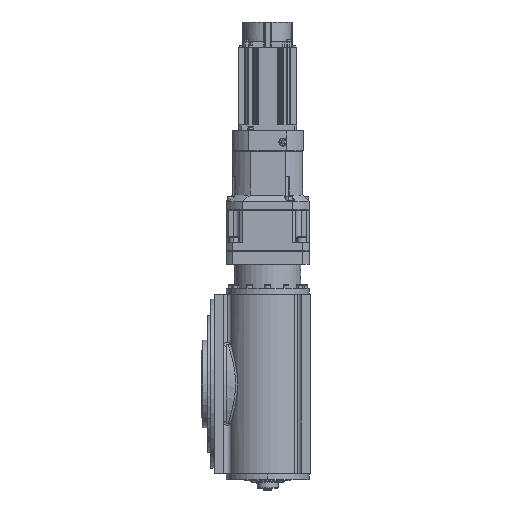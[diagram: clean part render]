
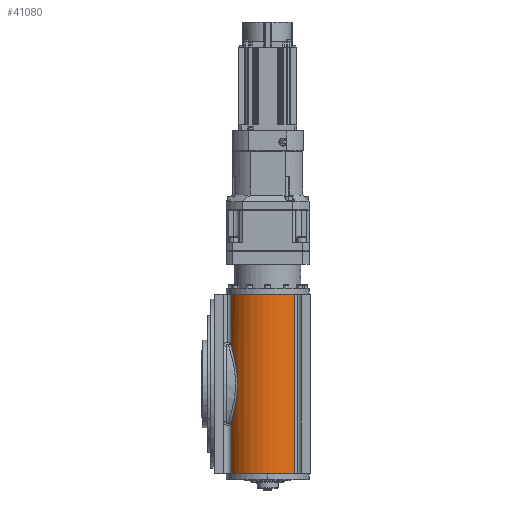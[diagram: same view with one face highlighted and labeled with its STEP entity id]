
A CAD part, left-side view. The second image highlights one B-rep face of the part: STEP entity #41080.
In plain terms, the highlighted cylindrical face has radius 71 mm (diameter 142 mm), a partial arc.
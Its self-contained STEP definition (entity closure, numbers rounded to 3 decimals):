
#3205 = CARTESIAN_POINT ( 'NONE',  ( -130.722, 135.43, -63.561 ) ) ;
#3696 = CARTESIAN_POINT ( 'NONE',  ( -142.826, 126.476, -19.641 ) ) ;
#7755 = DIRECTION ( 'NONE',  ( 0., 0., 1. ) ) ;
#7945 = AXIS2_PLACEMENT_3D ( 'NONE', #30202, #60069, #38336 ) ;
#10569 = CARTESIAN_POINT ( 'NONE',  ( -128.109, 136.808, -500000. ) ) ;
#11049 = EDGE_CURVE ( 'NONE', #29724, #15062, #94464, .T. ) ;
#11271 = CARTESIAN_POINT ( 'NONE',  ( -144.049, 125.334, 2.839 ) ) ;
#11756 = CARTESIAN_POINT ( 'NONE',  ( -141.192, 127.924, -30.015 ) ) ;
#12470 = LINE ( 'NONE', #96838, #62014 ) ;
#14982 = CARTESIAN_POINT ( 'NONE',  ( -95., 74., -154. ) ) ;
#15062 = VERTEX_POINT ( 'NONE', #67678 ) ;
#16225 = CARTESIAN_POINT ( 'NONE',  ( -128.109, 136.808, 154. ) ) ;
#16400 = AXIS2_PLACEMENT_3D ( 'NONE', #61352, #7755, #91068 ) ;
#18342 = CARTESIAN_POINT ( 'NONE',  ( -143.713, 125.653, 10.36 ) ) ;
#18853 = CARTESIAN_POINT ( 'NONE',  ( -141.962, 127.251, -25.6 ) ) ;
#19120 = LINE ( 'NONE', #10569, #38814 ) ;
#19866 = CARTESIAN_POINT ( 'NONE',  ( -143.967, 125.413, 5.846 ) ) ;
#21327 = CARTESIAN_POINT ( 'NONE',  ( -128.109, 136.808, -154. ) ) ;
#23214 = VERTEX_POINT ( 'NONE', #65581 ) ;
#25001 = EDGE_CURVE ( 'NONE', #15062, #64308, #40523, .T. ) ;
#26444 = CARTESIAN_POINT ( 'NONE',  ( -136.889, 131.329, 46.942 ) ) ;
#29477 = EDGE_CURVE ( 'NONE', #29724, #62097, #19120, .T. ) ;
#29724 = VERTEX_POINT ( 'NONE', #48913 ) ;
#30202 = CARTESIAN_POINT ( 'NONE',  ( -95., 74., -154. ) ) ;
#33474 = VERTEX_POINT ( 'NONE', #88757 ) ;
#33542 = CARTESIAN_POINT ( 'NONE',  ( -133.018, 134.012, 58.125 ) ) ;
#34537 = CARTESIAN_POINT ( 'NONE',  ( -138.57, 130.069, 41.275 ) ) ;
#34563 = ORIENTED_EDGE ( 'NONE', *, *, #79635, .T. ) ;
#35548 = CARTESIAN_POINT ( 'NONE',  ( -142.631, 126.653, -21.138 ) ) ;
#38336 = DIRECTION ( 'NONE',  ( 1., 0., 0. ) ) ;
#38814 = VECTOR ( 'NONE', #42403, 1000. ) ;
#39037 = CIRCLE ( 'NONE', #16400, 71. ) ;
#39189 = CARTESIAN_POINT ( 'NONE',  ( -130.725, 135.429, 63.555 ) ) ;
#40015 = DIRECTION ( 'NONE',  ( 0., 0., -1. ) ) ;
#40523 = LINE ( 'NONE', #79342, #45690 ) ;
#41080 = ADVANCED_FACE ( 'NONE', ( #83676 ), #52967, .T. ) ;
#42403 = DIRECTION ( 'NONE',  ( 0., 0., 1. ) ) ;
#42629 = CARTESIAN_POINT ( 'NONE',  ( -143.2, 126.132, 16.387 ) ) ;
#45690 = VECTOR ( 'NONE', #40015, 1000. ) ;
#48744 = CARTESIAN_POINT ( 'NONE',  ( -144.04, 125.343, -6.17 ) ) ;
#48913 = CARTESIAN_POINT ( 'NONE',  ( -128.109, 136.808, 68.859 ) ) ;
#49233 = CARTESIAN_POINT ( 'NONE',  ( -128.109, 136.808, -68.859 ) ) ;
#49721 = CARTESIAN_POINT ( 'NONE',  ( -140.598, 128.429, -32.922 ) ) ;
#52967 = CYLINDRICAL_SURFACE ( 'NONE', #79910, 71. ) ;
#56239 = ORIENTED_EDGE ( 'NONE', *, *, #98553, .T. ) ;
#57321 = CARTESIAN_POINT ( 'NONE',  ( -137.325, 131.008, 45.529 ) ) ;
#59995 = DIRECTION ( 'NONE',  ( 0., 0., 1. ) ) ;
#60069 = DIRECTION ( 'NONE',  ( 0., 0., 1. ) ) ;
#61024 = DIRECTION ( 'NONE',  ( 1., 0., 0. ) ) ;
#61352 = CARTESIAN_POINT ( 'NONE',  ( -95., 74., 154. ) ) ;
#62014 = VECTOR ( 'NONE', #59995, 1000. ) ;
#62097 = VERTEX_POINT ( 'NONE', #16225 ) ;
#64308 = VERTEX_POINT ( 'NONE', #21327 ) ;
#65348 = CARTESIAN_POINT ( 'NONE',  ( -143.351, 125.993, 14.878 ) ) ;
#65581 = CARTESIAN_POINT ( 'NONE',  ( -148.721, 27.577, -154. ) ) ;
#65838 = CARTESIAN_POINT ( 'NONE',  ( -135.977, 131.984, 49.755 ) ) ;
#65981 = CIRCLE ( 'NONE', #7945, 71. ) ;
#67678 = CARTESIAN_POINT ( 'NONE',  ( -128.109, 136.808, -68.859 ) ) ;
#73383 = CARTESIAN_POINT ( 'NONE',  ( -143.607, 125.753, 11.865 ) ) ;
#75622 = DIRECTION ( 'NONE',  ( 0., 0., 1. ) ) ;
#79342 = CARTESIAN_POINT ( 'NONE',  ( -128.109, 136.808, 500000. ) ) ;
#79491 = CARTESIAN_POINT ( 'NONE',  ( -132.999, 134.023, -58.167 ) ) ;
#79635 = EDGE_CURVE ( 'NONE', #64308, #23214, #65981, .T. ) ;
#79910 = AXIS2_PLACEMENT_3D ( 'NONE', #14982, #75622, #61024 ) ;
#79987 = CARTESIAN_POINT ( 'NONE',  ( -142.345, 126.918, 23.884 ) ) ;
#80493 = CARTESIAN_POINT ( 'NONE',  ( -138.584, 130.076, -41.542 ) ) ;
#80988 = CARTESIAN_POINT ( 'NONE',  ( -142.199, 127.041, -24.119 ) ) ;
#83676 = FACE_OUTER_BOUND ( 'NONE', #89208, .T. ) ;
#85070 = CARTESIAN_POINT ( 'NONE',  ( -128.109, 136.808, 68.859 ) ) ;
#85396 = ORIENTED_EDGE ( 'NONE', *, *, #11049, .T. ) ;
#85588 = ORIENTED_EDGE ( 'NONE', *, *, #25001, .T. ) ;
#87525 = CARTESIAN_POINT ( 'NONE',  ( -139.32, 129.475, 38.415 ) ) ;
#88014 = CARTESIAN_POINT ( 'NONE',  ( -141.327, 127.831, 29.758 ) ) ;
#88267 = ORIENTED_EDGE ( 'NONE', *, *, #95796, .F. ) ;
#88757 = CARTESIAN_POINT ( 'NONE',  ( -148.721, 27.577, 154. ) ) ;
#89004 = CARTESIAN_POINT ( 'NONE',  ( -143.692, 125.681, -12.164 ) ) ;
#89208 = EDGE_LOOP ( 'NONE', ( #92697, #85396, #85588, #34563, #56239, #88267 ) ) ;
#91068 = DIRECTION ( 'NONE',  ( 1., 0., 0. ) ) ;
#92697 = ORIENTED_EDGE ( 'NONE', *, *, #29477, .F. ) ;
#94464 = B_SPLINE_CURVE_WITH_KNOTS ( 'NONE', 3,
 ( #85070, #39189, #33542, #95623, #65838, #26444, #57321, #34537, #87525, #88014, #79987, #42629, #65348, #73383, #18342, #19866, #11271, #48744, #89004, #3696, #35548, #80988, #18853, #11756, #49721, #80493, #95133, #79491, #3205, #49233 ),
 .UNSPECIFIED., .F., .F.,
 ( 4, 2, 2, 2, 2, 2, 2, 2, 2, 2, 2, 2, 2, 2, 4 ),
 ( 0., 0.018, 0.023, 0.027, 0.036, 0.055, 0.059, 0.064, 0.073, 0.091, 0.095, 0.1, 0.109, 0.127, 0.145 ),
 .UNSPECIFIED. ) ;
#95133 = CARTESIAN_POINT ( 'NONE',  ( -136.93, 131.346, -47.157 ) ) ;
#95623 = CARTESIAN_POINT ( 'NONE',  ( -135.5, 132.319, 51.157 ) ) ;
#95796 = EDGE_CURVE ( 'NONE', #62097, #33474, #39037, .T. ) ;
#96838 = CARTESIAN_POINT ( 'NONE',  ( -148.721, 27.577, -154. ) ) ;
#98553 = EDGE_CURVE ( 'NONE', #23214, #33474, #12470, .T. ) ;
